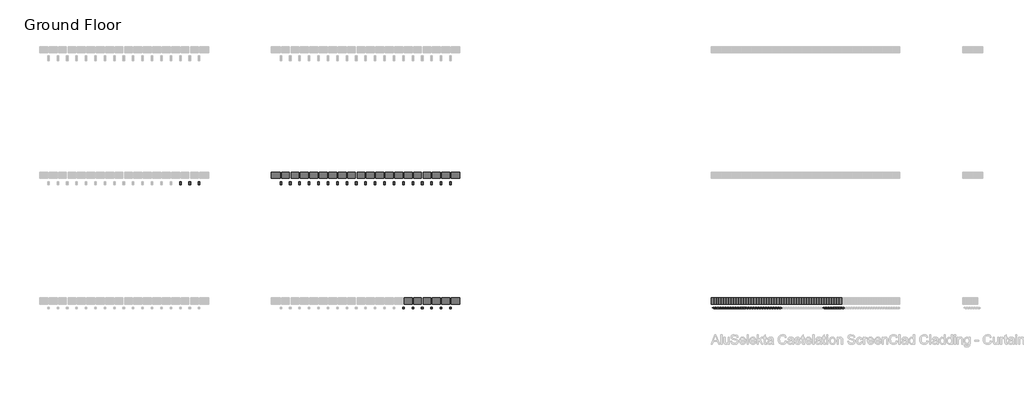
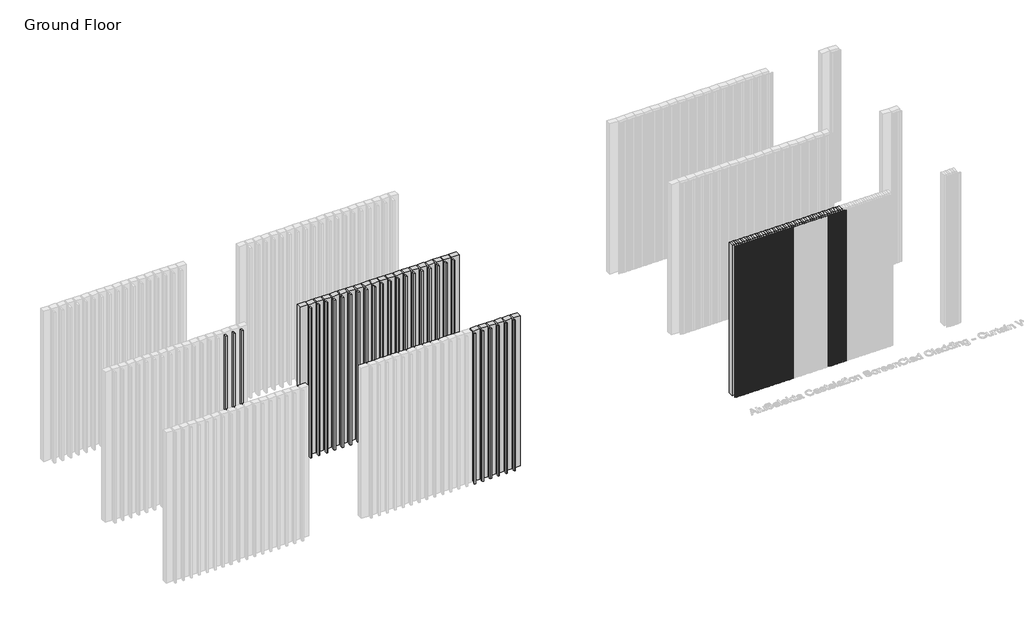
# One storey, part 7 of 350: 78 plates, 63 members.
"""IFC4 building model written with IfcOpenShell, lengths in millimetres."""

from ifc_helpers import new_model, si_unit, origin, place, context, project, spatial, transform, mapped, element, save
from components import rectangular_mullion_4c3290df, rectangular_mullion_5535ef50, rectangular_mullion_ec047115, empty_system_panel_empty_db8e642d, empty_system_panel_empty_1b6afc67, empty_system_panel_empty_4d48d162, empty_system_panel_empty_d822e783, empty_system_panel_empty_086c6263

model = new_model("IFC4")

# Units and contexts
model_context = context("Model", 3, world=origin())
ifc_project = project(units=[si_unit("LENGTHUNIT", "METRE", prefix="MILLI")], contexts=[model_context])

# Site, building, storey
site = spatial("IfcSite", under=ifc_project)
building = spatial("IfcBuilding", under=site)
storey = spatial("IfcBuildingStorey", under=building, Name="Ground Floor", Elevation=0.0)

# Members
placement = place(None, origin())
rectangular_mullion_shape = rectangular_mullion_4c3290df(model_context)
element("IfcMember", 1, ObjectType="Rectangular Mullion : Cladding_Aluminium_Modinex_AluSelekta_Castelation_ScreenClad_40_AfricanEbony", at=placement, inside=storey, context=model_context, shape_type="MappedRepresentation", body=[
    mapped(rectangular_mullion_shape, transform((30996.4361642, 4968.2978302, 0.0), x_axis=(1.0, 0.0, 0.0), y_axis=(0.0, -1.0, 0.0), z_axis=(0.0, 0.0, -1.0))),
])
element("IfcMember", 2, ObjectType="Rectangular Mullion : Cladding_Aluminium_Modinex_AluSelekta_Castelation_ScreenClad_40_AfricanEbony", at=placement, inside=storey, context=model_context, shape_type="MappedRepresentation", body=[
    mapped(rectangular_mullion_shape, transform((30956.4361642, 4968.2978302, 0.0), x_axis=(1.0, 0.0, 0.0), y_axis=(0.0, -1.0, 0.0), z_axis=(0.0, 0.0, -1.0))),
])
element("IfcMember", 3, ObjectType="Rectangular Mullion : Cladding_Aluminium_Modinex_AluSelekta_Castelation_ScreenClad_40_AfricanEbony", at=placement, inside=storey, context=model_context, shape_type="MappedRepresentation", body=[
    mapped(rectangular_mullion_shape, transform((30916.4361642, 4968.2978302, 0.0), x_axis=(1.0, 0.0, 0.0), y_axis=(0.0, -1.0, 0.0), z_axis=(0.0, 0.0, -1.0))),
])
element("IfcMember", 4, ObjectType="Rectangular Mullion : Cladding_Aluminium_Modinex_AluSelekta_Castelation_ScreenClad_40_AfricanEbony", at=placement, inside=storey, context=model_context, shape_type="MappedRepresentation", body=[
    mapped(rectangular_mullion_shape, transform((30876.4361642, 4968.2978302, 0.0), x_axis=(1.0, 0.0, 0.0), y_axis=(0.0, -1.0, 0.0), z_axis=(0.0, 0.0, -1.0))),
])
element("IfcMember", 5, ObjectType="Rectangular Mullion : Cladding_Aluminium_Modinex_AluSelekta_Castelation_ScreenClad_40_AfricanEbony", at=placement, inside=storey, context=model_context, shape_type="MappedRepresentation", body=[
    mapped(rectangular_mullion_shape, transform((30836.4361642, 4968.2978302, 0.0), x_axis=(1.0, 0.0, 0.0), y_axis=(0.0, -1.0, 0.0), z_axis=(0.0, 0.0, -1.0))),
])
element("IfcMember", 6, ObjectType="Rectangular Mullion : Cladding_Aluminium_Modinex_AluSelekta_Castelation_ScreenClad_40_AfricanEbony", at=placement, inside=storey, context=model_context, shape_type="MappedRepresentation", body=[
    mapped(rectangular_mullion_shape, transform((30796.4361642, 4968.2978302, 0.0), x_axis=(1.0, 0.0, 0.0), y_axis=(0.0, -1.0, 0.0), z_axis=(0.0, 0.0, -1.0))),
])
element("IfcMember", 7, ObjectType="Rectangular Mullion : Cladding_Aluminium_Modinex_AluSelekta_Castelation_ScreenClad_40_AfricanEbony", at=placement, inside=storey, context=model_context, shape_type="MappedRepresentation", body=[
    mapped(rectangular_mullion_shape, transform((30756.4361642, 4968.2978302, 0.0), x_axis=(1.0, 0.0, 0.0), y_axis=(0.0, -1.0, 0.0), z_axis=(0.0, 0.0, -1.0))),
])
element("IfcMember", 8, ObjectType="Rectangular Mullion : Cladding_Aluminium_Modinex_AluSelekta_Castelation_ScreenClad_40_AfricanEbony", at=placement, inside=storey, context=model_context, shape_type="MappedRepresentation", body=[
    mapped(rectangular_mullion_shape, transform((30716.4361642, 4968.2978302, 0.0), x_axis=(1.0, 0.0, 0.0), y_axis=(0.0, -1.0, 0.0), z_axis=(0.0, 0.0, -1.0))),
])
element("IfcMember", 9, ObjectType="Rectangular Mullion : Cladding_Aluminium_Modinex_AluSelekta_Castelation_ScreenClad_40_AfricanEbony", at=placement, inside=storey, context=model_context, shape_type="MappedRepresentation", body=[
    mapped(rectangular_mullion_shape, transform((29996.4361642, 4968.2978302, 0.0), x_axis=(1.0, 0.0, 0.0), y_axis=(0.0, -1.0, 0.0), z_axis=(0.0, 0.0, -1.0))),
])
element("IfcMember", 10, ObjectType="Rectangular Mullion : Cladding_Aluminium_Modinex_AluSelekta_Castelation_ScreenClad_40_AfricanEbony", at=placement, inside=storey, context=model_context, shape_type="MappedRepresentation", body=[
    mapped(rectangular_mullion_shape, transform((29956.4361642, 4968.2978302, 0.0), x_axis=(1.0, 0.0, 0.0), y_axis=(0.0, -1.0, 0.0), z_axis=(0.0, 0.0, -1.0))),
])
element("IfcMember", 11, ObjectType="Rectangular Mullion : Cladding_Aluminium_Modinex_AluSelekta_Castelation_ScreenClad_40_AfricanEbony", at=placement, inside=storey, context=model_context, shape_type="MappedRepresentation", body=[
    mapped(rectangular_mullion_shape, transform((29916.4361642, 4968.2978302, 0.0), x_axis=(1.0, 0.0, 0.0), y_axis=(0.0, -1.0, 0.0), z_axis=(0.0, 0.0, -1.0))),
])
element("IfcMember", 12, ObjectType="Rectangular Mullion : Cladding_Aluminium_Modinex_AluSelekta_Castelation_ScreenClad_40_AfricanEbony", at=placement, inside=storey, context=model_context, shape_type="MappedRepresentation", body=[
    mapped(rectangular_mullion_shape, transform((29876.4361642, 4968.2978302, 0.0), x_axis=(1.0, 0.0, 0.0), y_axis=(0.0, -1.0, 0.0), z_axis=(0.0, 0.0, -1.0))),
])
element("IfcMember", 13, ObjectType="Rectangular Mullion : Cladding_Aluminium_Modinex_AluSelekta_Castelation_ScreenClad_40_AfricanEbony", at=placement, inside=storey, context=model_context, shape_type="MappedRepresentation", body=[
    mapped(rectangular_mullion_shape, transform((29836.4361642, 4968.2978302, 0.0), x_axis=(1.0, 0.0, 0.0), y_axis=(0.0, -1.0, 0.0), z_axis=(0.0, 0.0, -1.0))),
])
element("IfcMember", 14, ObjectType="Rectangular Mullion : Cladding_Aluminium_Modinex_AluSelekta_Castelation_ScreenClad_40_AfricanEbony", at=placement, inside=storey, context=model_context, shape_type="MappedRepresentation", body=[
    mapped(rectangular_mullion_shape, transform((29796.4361642, 4968.2978302, 0.0), x_axis=(1.0, 0.0, 0.0), y_axis=(0.0, -1.0, 0.0), z_axis=(0.0, 0.0, -1.0))),
])
element("IfcMember", 15, ObjectType="Rectangular Mullion : Cladding_Aluminium_Modinex_AluSelekta_Castelation_ScreenClad_40_AfricanEbony", at=placement, inside=storey, context=model_context, shape_type="MappedRepresentation", body=[
    mapped(rectangular_mullion_shape, transform((29756.4361642, 4968.2978302, 0.0), x_axis=(1.0, 0.0, 0.0), y_axis=(0.0, -1.0, 0.0), z_axis=(0.0, 0.0, -1.0))),
])
element("IfcMember", 16, ObjectType="Rectangular Mullion : Cladding_Aluminium_Modinex_AluSelekta_Castelation_ScreenClad_40_AfricanEbony", at=placement, inside=storey, context=model_context, shape_type="MappedRepresentation", body=[
    mapped(rectangular_mullion_shape, transform((29716.4361642, 4968.2978302, 0.0), x_axis=(1.0, 0.0, 0.0), y_axis=(0.0, -1.0, 0.0), z_axis=(0.0, 0.0, -1.0))),
])
element("IfcMember", 17, ObjectType="Rectangular Mullion : Cladding_Aluminium_Modinex_AluSelekta_Castelation_ScreenClad_40_AfricanEbony", at=placement, inside=storey, context=model_context, shape_type="MappedRepresentation", body=[
    mapped(rectangular_mullion_shape, transform((29676.4361642, 4968.2978302, 0.0), x_axis=(1.0, 0.0, 0.0), y_axis=(0.0, -1.0, 0.0), z_axis=(0.0, 0.0, -1.0))),
])
element("IfcMember", 18, ObjectType="Rectangular Mullion : Cladding_Aluminium_Modinex_AluSelekta_Castelation_ScreenClad_40_AfricanEbony", at=placement, inside=storey, context=model_context, shape_type="MappedRepresentation", body=[
    mapped(rectangular_mullion_shape, transform((29636.4361642, 4968.2978302, 0.0), x_axis=(1.0, 0.0, 0.0), y_axis=(0.0, -1.0, 0.0), z_axis=(0.0, 0.0, -1.0))),
])
element("IfcMember", 19, ObjectType="Rectangular Mullion : Cladding_Aluminium_Modinex_AluSelekta_Castelation_ScreenClad_40_AfricanEbony", at=placement, inside=storey, context=model_context, shape_type="MappedRepresentation", body=[
    mapped(rectangular_mullion_shape, transform((29596.4361642, 4968.2978302, 0.0), x_axis=(1.0, 0.0, 0.0), y_axis=(0.0, -1.0, 0.0), z_axis=(0.0, 0.0, -1.0))),
])
element("IfcMember", 20, ObjectType="Rectangular Mullion : Cladding_Aluminium_Modinex_AluSelekta_Castelation_ScreenClad_40_AfricanEbony", at=placement, inside=storey, context=model_context, shape_type="MappedRepresentation", body=[
    mapped(rectangular_mullion_shape, transform((29556.4361642, 4968.2978302, 0.0), x_axis=(1.0, 0.0, 0.0), y_axis=(0.0, -1.0, 0.0), z_axis=(0.0, 0.0, -1.0))),
])
element("IfcMember", 21, ObjectType="Rectangular Mullion : Cladding_Aluminium_Modinex_AluSelekta_Castelation_ScreenClad_40_AfricanEbony", at=placement, inside=storey, context=model_context, shape_type="MappedRepresentation", body=[
    mapped(rectangular_mullion_shape, transform((29516.4361642, 4968.2978302, 0.0), x_axis=(1.0, 0.0, 0.0), y_axis=(0.0, -1.0, 0.0), z_axis=(0.0, 0.0, -1.0))),
])
element("IfcMember", 22, ObjectType="Rectangular Mullion : Cladding_Aluminium_Modinex_AluSelekta_Castelation_ScreenClad_40_AfricanEbony", at=placement, inside=storey, context=model_context, shape_type="MappedRepresentation", body=[
    mapped(rectangular_mullion_shape, transform((29476.4361642, 4968.2978302, 0.0), x_axis=(1.0, 0.0, 0.0), y_axis=(0.0, -1.0, 0.0), z_axis=(0.0, 0.0, -1.0))),
])
element("IfcMember", 23, ObjectType="Rectangular Mullion : Cladding_Aluminium_Modinex_AluSelekta_Castelation_ScreenClad_40_AfricanEbony", at=placement, inside=storey, context=model_context, shape_type="MappedRepresentation", body=[
    mapped(rectangular_mullion_shape, transform((29436.4361642, 4968.2978302, 0.0), x_axis=(1.0, 0.0, 0.0), y_axis=(0.0, -1.0, 0.0), z_axis=(0.0, 0.0, -1.0))),
])
element("IfcMember", 24, ObjectType="Rectangular Mullion : Cladding_Aluminium_Modinex_AluSelekta_Castelation_ScreenClad_40_AfricanEbony", at=placement, inside=storey, context=model_context, shape_type="MappedRepresentation", body=[
    mapped(rectangular_mullion_shape, transform((29396.4361642, 4968.2978302, 0.0), x_axis=(1.0, 0.0, 0.0), y_axis=(0.0, -1.0, 0.0), z_axis=(0.0, 0.0, -1.0))),
])
element("IfcMember", 25, ObjectType="Rectangular Mullion : Cladding_Aluminium_Modinex_AluSelekta_Castelation_ScreenClad_40_AfricanEbony", at=placement, inside=storey, context=model_context, shape_type="MappedRepresentation", body=[
    mapped(rectangular_mullion_shape, transform((29356.4361642, 4968.2978302, 0.0), x_axis=(1.0, 0.0, 0.0), y_axis=(0.0, -1.0, 0.0), z_axis=(0.0, 0.0, -1.0))),
])
element("IfcMember", 26, ObjectType="Rectangular Mullion : Cladding_Aluminium_Modinex_AluSelekta_Castelation_ScreenClad_40_AfricanEbony", at=placement, inside=storey, context=model_context, shape_type="MappedRepresentation", body=[
    mapped(rectangular_mullion_shape, transform((29316.4361642, 4968.2978302, 0.0), x_axis=(1.0, 0.0, 0.0), y_axis=(0.0, -1.0, 0.0), z_axis=(0.0, 0.0, -1.0))),
])
element("IfcMember", 27, ObjectType="Rectangular Mullion : Cladding_Aluminium_Modinex_AluSelekta_Castelation_ScreenClad_40_AfricanEbony", at=placement, inside=storey, context=model_context, shape_type="MappedRepresentation", body=[
    mapped(rectangular_mullion_shape, transform((29276.4361642, 4968.2978302, 0.0), x_axis=(1.0, 0.0, 0.0), y_axis=(0.0, -1.0, 0.0), z_axis=(0.0, 0.0, -1.0))),
])
element("IfcMember", 28, ObjectType="Rectangular Mullion : Cladding_Aluminium_Modinex_AluSelekta_Castelation_ScreenClad_40_AfricanEbony", at=placement, inside=storey, context=model_context, shape_type="MappedRepresentation", body=[
    mapped(rectangular_mullion_shape, transform((29236.4361642, 4968.2978302, 0.0), x_axis=(1.0, 0.0, 0.0), y_axis=(0.0, -1.0, 0.0), z_axis=(0.0, 0.0, -1.0))),
])
element("IfcMember", 29, ObjectType="Rectangular Mullion : Cladding_Aluminium_Modinex_AluSelekta_Castelation_ScreenClad_40_AfricanEbony", at=placement, inside=storey, context=model_context, shape_type="MappedRepresentation", body=[
    mapped(rectangular_mullion_shape, transform((29196.4361642, 4968.2978302, 0.0), x_axis=(1.0, 0.0, 0.0), y_axis=(0.0, -1.0, 0.0), z_axis=(0.0, 0.0, -1.0))),
])
element("IfcMember", 30, ObjectType="Rectangular Mullion : Cladding_Aluminium_Modinex_AluSelekta_Castelation_ScreenClad_40_AfricanEbony", at=placement, inside=storey, context=model_context, shape_type="MappedRepresentation", body=[
    mapped(rectangular_mullion_shape, transform((29156.4361642, 4968.2978302, 0.0), x_axis=(1.0, 0.0, 0.0), y_axis=(0.0, -1.0, 0.0), z_axis=(0.0, 0.0, -1.0))),
])
element("IfcMember", 31, ObjectType="Rectangular Mullion : Cladding_Aluminium_Modinex_AluSelekta_Castelation_ScreenClad_40_AfricanEbony", at=placement, inside=storey, context=model_context, shape_type="MappedRepresentation", body=[
    mapped(rectangular_mullion_shape, transform((29116.4361642, 4968.2978302, 0.0), x_axis=(1.0, 0.0, 0.0), y_axis=(0.0, -1.0, 0.0), z_axis=(0.0, 0.0, -1.0))),
])
element("IfcMember", 32, ObjectType="Rectangular Mullion : Cladding_Aluminium_Modinex_AluSelekta_Castelation_ScreenClad_40_AfricanEbony", at=placement, inside=storey, context=model_context, shape_type="MappedRepresentation", body=[
    mapped(rectangular_mullion_shape, transform((29076.4361642, 4968.2978302, 0.0), x_axis=(1.0, 0.0, 0.0), y_axis=(0.0, -1.0, 0.0), z_axis=(0.0, 0.0, -1.0))),
])
element("IfcMember", 33, ObjectType="Rectangular Mullion : Cladding_Aluminium_Modinex_AluSelekta_Castelation_ScreenClad_40_AfricanEbony", at=placement, inside=storey, context=model_context, shape_type="MappedRepresentation", body=[
    mapped(rectangular_mullion_shape, transform((29036.4361642, 4968.2978302, 0.0), x_axis=(1.0, 0.0, 0.0), y_axis=(0.0, -1.0, 0.0), z_axis=(0.0, 0.0, -1.0))),
])
element("IfcMember", 34, ObjectType="Rectangular Mullion : Cladding_Aluminium_Modinex_AluSelekta_Castelation_ScreenClad_40_AfricanEbony", at=placement, inside=storey, context=model_context, shape_type="MappedRepresentation", body=[
    mapped(rectangular_mullion_shape, transform((28996.4361642, 4968.2978302, 0.0), x_axis=(1.0, 0.0, 0.0), y_axis=(0.0, -1.0, 0.0), z_axis=(0.0, 0.0, -1.0))),
])
element("IfcMember", 35, ObjectType="Rectangular Mullion : Cladding_Aluminium_Modinex_AluSelekta_Castelation_ScreenClad_40_AfricanEbony", at=placement, inside=storey, context=model_context, shape_type="MappedRepresentation", body=[
    mapped(rectangular_mullion_shape, transform((28956.4361642, 4968.2978302, 0.0), x_axis=(1.0, 0.0, 0.0), y_axis=(0.0, -1.0, 0.0), z_axis=(0.0, 0.0, -1.0))),
])
rectangular_mullion_2_shape = rectangular_mullion_5535ef50(model_context)
element("IfcMember", 36, ObjectType="Rectangular Mullion : Batten_Aluminium_Modinex_AluBatten_25x50_TasmanianOak", at=placement, inside=storey, context=model_context, shape_type="MappedRepresentation", body=[
    mapped(rectangular_mullion_2_shape, transform((20466.4361642, 6968.2978302, 0.0), x_axis=(1.0, 0.0, 0.0), y_axis=(0.0, -1.0, 0.0), z_axis=(0.0, 0.0, -1.0))),
])
element("IfcMember", 37, ObjectType="Rectangular Mullion : Batten_Aluminium_Modinex_AluBatten_25x50_TasmanianOak", at=placement, inside=storey, context=model_context, shape_type="MappedRepresentation", body=[
    mapped(rectangular_mullion_2_shape, transform((20616.4361642, 6968.2978302, 0.0), x_axis=(1.0, 0.0, 0.0), y_axis=(0.0, -1.0, 0.0), z_axis=(0.0, 0.0, -1.0))),
])
element("IfcMember", 38, ObjectType="Rectangular Mullion : Batten_Aluminium_Modinex_AluBatten_25x50_TasmanianOak", at=placement, inside=storey, context=model_context, shape_type="MappedRepresentation", body=[
    mapped(rectangular_mullion_2_shape, transform((20766.4361642, 6968.2978302, 0.0), x_axis=(1.0, 0.0, 0.0), y_axis=(0.0, -1.0, 0.0), z_axis=(0.0, 0.0, -1.0))),
])
rectangular_mullion_3_shape = rectangular_mullion_ec047115(model_context)
element("IfcMember", 39, ObjectType="Rectangular Mullion : Batten_Aluminium_Modinex_AluBatten_25x25_WhiteOak", at=placement, inside=storey, context=model_context, shape_type="MappedRepresentation", body=[
    mapped(rectangular_mullion_3_shape, transform((24016.4361642, 4968.2978302, 0.0), x_axis=(1.0, 0.0, 0.0), y_axis=(0.0, -1.0, 0.0), z_axis=(0.0, 0.0, -1.0))),
])
element("IfcMember", 40, ObjectType="Rectangular Mullion : Batten_Aluminium_Modinex_AluBatten_25x25_WhiteOak", at=placement, inside=storey, context=model_context, shape_type="MappedRepresentation", body=[
    mapped(rectangular_mullion_3_shape, transform((24166.4361642, 4968.2978302, 0.0), x_axis=(1.0, 0.0, 0.0), y_axis=(0.0, -1.0, 0.0), z_axis=(0.0, 0.0, -1.0))),
])
element("IfcMember", 41, ObjectType="Rectangular Mullion : Batten_Aluminium_Modinex_AluBatten_25x25_WhiteOak", at=placement, inside=storey, context=model_context, shape_type="MappedRepresentation", body=[
    mapped(rectangular_mullion_3_shape, transform((24316.4361642, 4968.2978302, 0.0), x_axis=(1.0, 0.0, 0.0), y_axis=(0.0, -1.0, 0.0), z_axis=(0.0, 0.0, -1.0))),
])
element("IfcMember", 42, ObjectType="Rectangular Mullion : Batten_Aluminium_Modinex_AluBatten_25x25_WhiteOak", at=placement, inside=storey, context=model_context, shape_type="MappedRepresentation", body=[
    mapped(rectangular_mullion_3_shape, transform((24466.4361642, 4968.2978302, 0.0), x_axis=(1.0, 0.0, 0.0), y_axis=(0.0, -1.0, 0.0), z_axis=(0.0, 0.0, -1.0))),
])
element("IfcMember", 43, ObjectType="Rectangular Mullion : Batten_Aluminium_Modinex_AluBatten_25x25_WhiteOak", at=placement, inside=storey, context=model_context, shape_type="MappedRepresentation", body=[
    mapped(rectangular_mullion_3_shape, transform((24616.4361642, 4968.2978302, 0.0), x_axis=(1.0, 0.0, 0.0), y_axis=(0.0, -1.0, 0.0), z_axis=(0.0, 0.0, -1.0))),
])
element("IfcMember", 44, ObjectType="Rectangular Mullion : Batten_Aluminium_Modinex_AluBatten_25x25_WhiteOak", at=placement, inside=storey, context=model_context, shape_type="MappedRepresentation", body=[
    mapped(rectangular_mullion_3_shape, transform((24766.4361642, 4968.2978302, 0.0), x_axis=(1.0, 0.0, 0.0), y_axis=(0.0, -1.0, 0.0), z_axis=(0.0, 0.0, -1.0))),
])
element("IfcMember", 45, ObjectType="Rectangular Mullion : Batten_Aluminium_Modinex_AluBatten_25x50_WhiteOak", at=placement, inside=storey, context=model_context, shape_type="MappedRepresentation", body=[
    mapped(rectangular_mullion_2_shape, transform((22066.4361642, 6968.2978302, 0.0), x_axis=(1.0, 0.0, 0.0), y_axis=(0.0, -1.0, 0.0), z_axis=(0.0, 0.0, -1.0))),
])
element("IfcMember", 46, ObjectType="Rectangular Mullion : Batten_Aluminium_Modinex_AluBatten_25x50_WhiteOak", at=placement, inside=storey, context=model_context, shape_type="MappedRepresentation", body=[
    mapped(rectangular_mullion_2_shape, transform((22216.4361642, 6968.2978302, 0.0), x_axis=(1.0, 0.0, 0.0), y_axis=(0.0, -1.0, 0.0), z_axis=(0.0, 0.0, -1.0))),
])
element("IfcMember", 47, ObjectType="Rectangular Mullion : Batten_Aluminium_Modinex_AluBatten_25x50_WhiteOak", at=placement, inside=storey, context=model_context, shape_type="MappedRepresentation", body=[
    mapped(rectangular_mullion_2_shape, transform((22366.4361642, 6968.2978302, 0.0), x_axis=(1.0, 0.0, 0.0), y_axis=(0.0, -1.0, 0.0), z_axis=(0.0, 0.0, -1.0))),
])
element("IfcMember", 48, ObjectType="Rectangular Mullion : Batten_Aluminium_Modinex_AluBatten_25x50_WhiteOak", at=placement, inside=storey, context=model_context, shape_type="MappedRepresentation", body=[
    mapped(rectangular_mullion_2_shape, transform((22516.4361642, 6968.2978302, 0.0), x_axis=(1.0, 0.0, 0.0), y_axis=(0.0, -1.0, 0.0), z_axis=(0.0, 0.0, -1.0))),
])
element("IfcMember", 49, ObjectType="Rectangular Mullion : Batten_Aluminium_Modinex_AluBatten_25x50_WhiteOak", at=placement, inside=storey, context=model_context, shape_type="MappedRepresentation", body=[
    mapped(rectangular_mullion_2_shape, transform((22666.4361642, 6968.2978302, 0.0), x_axis=(1.0, 0.0, 0.0), y_axis=(0.0, -1.0, 0.0), z_axis=(0.0, 0.0, -1.0))),
])
element("IfcMember", 50, ObjectType="Rectangular Mullion : Batten_Aluminium_Modinex_AluBatten_25x50_WhiteOak", at=placement, inside=storey, context=model_context, shape_type="MappedRepresentation", body=[
    mapped(rectangular_mullion_2_shape, transform((22816.4361642, 6968.2978302, 0.0), x_axis=(1.0, 0.0, 0.0), y_axis=(0.0, -1.0, 0.0), z_axis=(0.0, 0.0, -1.0))),
])
element("IfcMember", 51, ObjectType="Rectangular Mullion : Batten_Aluminium_Modinex_AluBatten_25x50_WhiteOak", at=placement, inside=storey, context=model_context, shape_type="MappedRepresentation", body=[
    mapped(rectangular_mullion_2_shape, transform((22966.4361642, 6968.2978302, 0.0), x_axis=(1.0, 0.0, 0.0), y_axis=(0.0, -1.0, 0.0), z_axis=(0.0, 0.0, -1.0))),
])
element("IfcMember", 52, ObjectType="Rectangular Mullion : Batten_Aluminium_Modinex_AluBatten_25x50_WhiteOak", at=placement, inside=storey, context=model_context, shape_type="MappedRepresentation", body=[
    mapped(rectangular_mullion_2_shape, transform((23116.4361642, 6968.2978302, 0.0), x_axis=(1.0, 0.0, 0.0), y_axis=(0.0, -1.0, 0.0), z_axis=(0.0, 0.0, -1.0))),
])
element("IfcMember", 53, ObjectType="Rectangular Mullion : Batten_Aluminium_Modinex_AluBatten_25x50_WhiteOak", at=placement, inside=storey, context=model_context, shape_type="MappedRepresentation", body=[
    mapped(rectangular_mullion_2_shape, transform((23266.4361642, 6968.2978302, 0.0), x_axis=(1.0, 0.0, 0.0), y_axis=(0.0, -1.0, 0.0), z_axis=(0.0, 0.0, -1.0))),
])
element("IfcMember", 54, ObjectType="Rectangular Mullion : Batten_Aluminium_Modinex_AluBatten_25x50_WhiteOak", at=placement, inside=storey, context=model_context, shape_type="MappedRepresentation", body=[
    mapped(rectangular_mullion_2_shape, transform((23416.4361642, 6968.2978302, 0.0), x_axis=(1.0, 0.0, 0.0), y_axis=(0.0, -1.0, 0.0), z_axis=(0.0, 0.0, -1.0))),
])
element("IfcMember", 55, ObjectType="Rectangular Mullion : Batten_Aluminium_Modinex_AluBatten_25x50_WhiteOak", at=placement, inside=storey, context=model_context, shape_type="MappedRepresentation", body=[
    mapped(rectangular_mullion_2_shape, transform((23566.4361642, 6968.2978302, 0.0), x_axis=(1.0, 0.0, 0.0), y_axis=(0.0, -1.0, 0.0), z_axis=(0.0, 0.0, -1.0))),
])
element("IfcMember", 56, ObjectType="Rectangular Mullion : Batten_Aluminium_Modinex_AluBatten_25x50_WhiteOak", at=placement, inside=storey, context=model_context, shape_type="MappedRepresentation", body=[
    mapped(rectangular_mullion_2_shape, transform((23716.4361642, 6968.2978302, 0.0), x_axis=(1.0, 0.0, 0.0), y_axis=(0.0, -1.0, 0.0), z_axis=(0.0, 0.0, -1.0))),
])
element("IfcMember", 57, ObjectType="Rectangular Mullion : Batten_Aluminium_Modinex_AluBatten_25x50_WhiteOak", at=placement, inside=storey, context=model_context, shape_type="MappedRepresentation", body=[
    mapped(rectangular_mullion_2_shape, transform((23866.4361642, 6968.2978302, 0.0), x_axis=(1.0, 0.0, 0.0), y_axis=(0.0, -1.0, 0.0), z_axis=(0.0, 0.0, -1.0))),
])
element("IfcMember", 58, ObjectType="Rectangular Mullion : Batten_Aluminium_Modinex_AluBatten_25x50_WhiteOak", at=placement, inside=storey, context=model_context, shape_type="MappedRepresentation", body=[
    mapped(rectangular_mullion_2_shape, transform((24016.4361642, 6968.2978302, 0.0), x_axis=(1.0, 0.0, 0.0), y_axis=(0.0, -1.0, 0.0), z_axis=(0.0, 0.0, -1.0))),
])
element("IfcMember", 59, ObjectType="Rectangular Mullion : Batten_Aluminium_Modinex_AluBatten_25x50_WhiteOak", at=placement, inside=storey, context=model_context, shape_type="MappedRepresentation", body=[
    mapped(rectangular_mullion_2_shape, transform((24166.4361642, 6968.2978302, 0.0), x_axis=(1.0, 0.0, 0.0), y_axis=(0.0, -1.0, 0.0), z_axis=(0.0, 0.0, -1.0))),
])
element("IfcMember", 60, ObjectType="Rectangular Mullion : Batten_Aluminium_Modinex_AluBatten_25x50_WhiteOak", at=placement, inside=storey, context=model_context, shape_type="MappedRepresentation", body=[
    mapped(rectangular_mullion_2_shape, transform((24316.4361642, 6968.2978302, 0.0), x_axis=(1.0, 0.0, 0.0), y_axis=(0.0, -1.0, 0.0), z_axis=(0.0, 0.0, -1.0))),
])
element("IfcMember", 61, ObjectType="Rectangular Mullion : Batten_Aluminium_Modinex_AluBatten_25x50_WhiteOak", at=placement, inside=storey, context=model_context, shape_type="MappedRepresentation", body=[
    mapped(rectangular_mullion_2_shape, transform((24466.4361642, 6968.2978302, 0.0), x_axis=(1.0, 0.0, 0.0), y_axis=(0.0, -1.0, 0.0), z_axis=(0.0, 0.0, -1.0))),
])
element("IfcMember", 62, ObjectType="Rectangular Mullion : Batten_Aluminium_Modinex_AluBatten_25x50_WhiteOak", at=placement, inside=storey, context=model_context, shape_type="MappedRepresentation", body=[
    mapped(rectangular_mullion_2_shape, transform((24616.4361642, 6968.2978302, 0.0), x_axis=(1.0, 0.0, 0.0), y_axis=(0.0, -1.0, 0.0), z_axis=(0.0, 0.0, -1.0))),
])
element("IfcMember", 63, ObjectType="Rectangular Mullion : Batten_Aluminium_Modinex_AluBatten_25x50_WhiteOak", at=placement, inside=storey, context=model_context, shape_type="MappedRepresentation", body=[
    mapped(rectangular_mullion_2_shape, transform((24766.4361642, 6968.2978302, 0.0), x_axis=(1.0, 0.0, 0.0), y_axis=(0.0, -1.0, 0.0), z_axis=(0.0, 0.0, -1.0))),
])

# Plates
empty_system_panel_empty_shape = empty_system_panel_empty_db8e642d(model_context)
element("IfcPlate", 64, ObjectType="Empty System Panel : Empty", at=placement, inside=storey, context=model_context, shape_type="MappedRepresentation", body=[
    mapped(empty_system_panel_empty_shape, transform((21985.1861641, 6968.2978302, 0.0), x_axis=(1.0, 0.0, 0.0), y_axis=(0.0, 1.0, 0.0), z_axis=(0.0, 0.0, 1.0))),
])
empty_system_panel_empty_2_shape = empty_system_panel_empty_1b6afc67(model_context)
element("IfcPlate", 65, ObjectType="Empty System Panel : Empty", at=placement, inside=storey, context=model_context, shape_type="MappedRepresentation", body=[
    mapped(empty_system_panel_empty_2_shape, transform((24091.4361642, 4968.2978302, 0.0), x_axis=(1.0, 0.0, 0.0), y_axis=(0.0, 1.0, 0.0), z_axis=(0.0, 0.0, 1.0))),
])
element("IfcPlate", 66, ObjectType="Empty System Panel : Empty", at=placement, inside=storey, context=model_context, shape_type="MappedRepresentation", body=[
    mapped(empty_system_panel_empty_2_shape, transform((24241.4361642, 4968.2978302, 0.0), x_axis=(1.0, 0.0, 0.0), y_axis=(0.0, 1.0, 0.0), z_axis=(0.0, 0.0, 1.0))),
])
element("IfcPlate", 67, ObjectType="Empty System Panel : Empty", at=placement, inside=storey, context=model_context, shape_type="MappedRepresentation", body=[
    mapped(empty_system_panel_empty_2_shape, transform((24391.4361642, 4968.2978302, 0.0), x_axis=(1.0, 0.0, 0.0), y_axis=(0.0, 1.0, 0.0), z_axis=(0.0, 0.0, 1.0))),
])
element("IfcPlate", 68, ObjectType="Empty System Panel : Empty", at=placement, inside=storey, context=model_context, shape_type="MappedRepresentation", body=[
    mapped(empty_system_panel_empty_2_shape, transform((24541.4361642, 4968.2978302, 0.0), x_axis=(1.0, 0.0, 0.0), y_axis=(0.0, 1.0, 0.0), z_axis=(0.0, 0.0, 1.0))),
])
element("IfcPlate", 69, ObjectType="Empty System Panel : Empty", at=placement, inside=storey, context=model_context, shape_type="MappedRepresentation", body=[
    mapped(empty_system_panel_empty_2_shape, transform((24691.4361642, 4968.2978302, 0.0), x_axis=(1.0, 0.0, 0.0), y_axis=(0.0, 1.0, 0.0), z_axis=(0.0, 0.0, 1.0))),
])
element("IfcPlate", 70, ObjectType="Empty System Panel : Empty", at=placement, inside=storey, context=model_context, shape_type="MappedRepresentation", body=[
    mapped(empty_system_panel_empty_2_shape, transform((22141.4361642, 6968.2978302, 0.0), x_axis=(1.0, 0.0, 0.0), y_axis=(0.0, 1.0, 0.0), z_axis=(0.0, 0.0, 1.0))),
])
element("IfcPlate", 71, ObjectType="Empty System Panel : Empty", at=placement, inside=storey, context=model_context, shape_type="MappedRepresentation", body=[
    mapped(empty_system_panel_empty_2_shape, transform((22291.4361642, 6968.2978302, 0.0), x_axis=(1.0, 0.0, 0.0), y_axis=(0.0, 1.0, 0.0), z_axis=(0.0, 0.0, 1.0))),
])
element("IfcPlate", 72, ObjectType="Empty System Panel : Empty", at=placement, inside=storey, context=model_context, shape_type="MappedRepresentation", body=[
    mapped(empty_system_panel_empty_2_shape, transform((22441.4361642, 6968.2978302, 0.0), x_axis=(1.0, 0.0, 0.0), y_axis=(0.0, 1.0, 0.0), z_axis=(0.0, 0.0, 1.0))),
])
element("IfcPlate", 73, ObjectType="Empty System Panel : Empty", at=placement, inside=storey, context=model_context, shape_type="MappedRepresentation", body=[
    mapped(empty_system_panel_empty_2_shape, transform((22591.4361642, 6968.2978302, 0.0), x_axis=(1.0, 0.0, 0.0), y_axis=(0.0, 1.0, 0.0), z_axis=(0.0, 0.0, 1.0))),
])
element("IfcPlate", 74, ObjectType="Empty System Panel : Empty", at=placement, inside=storey, context=model_context, shape_type="MappedRepresentation", body=[
    mapped(empty_system_panel_empty_2_shape, transform((22741.4361642, 6968.2978302, 0.0), x_axis=(1.0, 0.0, 0.0), y_axis=(0.0, 1.0, 0.0), z_axis=(0.0, 0.0, 1.0))),
])
element("IfcPlate", 75, ObjectType="Empty System Panel : Empty", at=placement, inside=storey, context=model_context, shape_type="MappedRepresentation", body=[
    mapped(empty_system_panel_empty_2_shape, transform((22891.4361642, 6968.2978302, 0.0), x_axis=(1.0, 0.0, 0.0), y_axis=(0.0, 1.0, 0.0), z_axis=(0.0, 0.0, 1.0))),
])
element("IfcPlate", 76, ObjectType="Empty System Panel : Empty", at=placement, inside=storey, context=model_context, shape_type="MappedRepresentation", body=[
    mapped(empty_system_panel_empty_2_shape, transform((23041.4361642, 6968.2978302, 0.0), x_axis=(1.0, 0.0, 0.0), y_axis=(0.0, 1.0, 0.0), z_axis=(0.0, 0.0, 1.0))),
])
element("IfcPlate", 77, ObjectType="Empty System Panel : Empty", at=placement, inside=storey, context=model_context, shape_type="MappedRepresentation", body=[
    mapped(empty_system_panel_empty_2_shape, transform((23191.4361642, 6968.2978302, 0.0), x_axis=(1.0, 0.0, 0.0), y_axis=(0.0, 1.0, 0.0), z_axis=(0.0, 0.0, 1.0))),
])
element("IfcPlate", 78, ObjectType="Empty System Panel : Empty", at=placement, inside=storey, context=model_context, shape_type="MappedRepresentation", body=[
    mapped(empty_system_panel_empty_2_shape, transform((23341.4361642, 6968.2978302, 0.0), x_axis=(1.0, 0.0, 0.0), y_axis=(0.0, 1.0, 0.0), z_axis=(0.0, 0.0, 1.0))),
])
element("IfcPlate", 79, ObjectType="Empty System Panel : Empty", at=placement, inside=storey, context=model_context, shape_type="MappedRepresentation", body=[
    mapped(empty_system_panel_empty_2_shape, transform((23491.4361642, 6968.2978302, 0.0), x_axis=(1.0, 0.0, 0.0), y_axis=(0.0, 1.0, 0.0), z_axis=(0.0, 0.0, 1.0))),
])
element("IfcPlate", 80, ObjectType="Empty System Panel : Empty", at=placement, inside=storey, context=model_context, shape_type="MappedRepresentation", body=[
    mapped(empty_system_panel_empty_2_shape, transform((23641.4361642, 6968.2978302, 0.0), x_axis=(1.0, 0.0, 0.0), y_axis=(0.0, 1.0, 0.0), z_axis=(0.0, 0.0, 1.0))),
])
element("IfcPlate", 81, ObjectType="Empty System Panel : Empty", at=placement, inside=storey, context=model_context, shape_type="MappedRepresentation", body=[
    mapped(empty_system_panel_empty_2_shape, transform((23791.4361642, 6968.2978302, 0.0), x_axis=(1.0, 0.0, 0.0), y_axis=(0.0, 1.0, 0.0), z_axis=(0.0, 0.0, 1.0))),
])
element("IfcPlate", 82, ObjectType="Empty System Panel : Empty", at=placement, inside=storey, context=model_context, shape_type="MappedRepresentation", body=[
    mapped(empty_system_panel_empty_2_shape, transform((23941.4361642, 6968.2978302, 0.0), x_axis=(1.0, 0.0, 0.0), y_axis=(0.0, 1.0, 0.0), z_axis=(0.0, 0.0, 1.0))),
])
element("IfcPlate", 83, ObjectType="Empty System Panel : Empty", at=placement, inside=storey, context=model_context, shape_type="MappedRepresentation", body=[
    mapped(empty_system_panel_empty_2_shape, transform((24091.4361642, 6968.2978302, 0.0), x_axis=(1.0, 0.0, 0.0), y_axis=(0.0, 1.0, 0.0), z_axis=(0.0, 0.0, 1.0))),
])
element("IfcPlate", 84, ObjectType="Empty System Panel : Empty", at=placement, inside=storey, context=model_context, shape_type="MappedRepresentation", body=[
    mapped(empty_system_panel_empty_2_shape, transform((24241.4361642, 6968.2978302, 0.0), x_axis=(1.0, 0.0, 0.0), y_axis=(0.0, 1.0, 0.0), z_axis=(0.0, 0.0, 1.0))),
])
element("IfcPlate", 85, ObjectType="Empty System Panel : Empty", at=placement, inside=storey, context=model_context, shape_type="MappedRepresentation", body=[
    mapped(empty_system_panel_empty_2_shape, transform((24391.4361642, 6968.2978302, 0.0), x_axis=(1.0, 0.0, 0.0), y_axis=(0.0, 1.0, 0.0), z_axis=(0.0, 0.0, 1.0))),
])
element("IfcPlate", 86, ObjectType="Empty System Panel : Empty", at=placement, inside=storey, context=model_context, shape_type="MappedRepresentation", body=[
    mapped(empty_system_panel_empty_2_shape, transform((24541.4361642, 6968.2978302, 0.0), x_axis=(1.0, 0.0, 0.0), y_axis=(0.0, 1.0, 0.0), z_axis=(0.0, 0.0, 1.0))),
])
element("IfcPlate", 87, ObjectType="Empty System Panel : Empty", at=placement, inside=storey, context=model_context, shape_type="MappedRepresentation", body=[
    mapped(empty_system_panel_empty_2_shape, transform((24691.4361642, 6968.2978302, 0.0), x_axis=(1.0, 0.0, 0.0), y_axis=(0.0, 1.0, 0.0), z_axis=(0.0, 0.0, 1.0))),
])
empty_system_panel_empty_3_shape = empty_system_panel_empty_4d48d162(model_context)
element("IfcPlate", 88, ObjectType="Empty System Panel : Empty", at=placement, inside=storey, context=model_context, shape_type="MappedRepresentation", body=[
    mapped(empty_system_panel_empty_3_shape, transform((24847.6861641, 4968.2978302, 0.0), x_axis=(1.0, 0.0, 0.0), y_axis=(0.0, 1.0, 0.0), z_axis=(0.0, 0.0, 1.0))),
])
element("IfcPlate", 89, ObjectType="Empty System Panel : Empty", at=placement, inside=storey, context=model_context, shape_type="MappedRepresentation", body=[
    mapped(empty_system_panel_empty_3_shape, transform((24847.6861641, 6968.2978302, 0.0), x_axis=(1.0, 0.0, 0.0), y_axis=(0.0, 1.0, 0.0), z_axis=(0.0, 0.0, 1.0))),
])
empty_system_panel_empty_4_shape = empty_system_panel_empty_d822e783(model_context)
element("IfcPlate", 90, ObjectType="Empty System Panel : Empty", at=placement, inside=storey, context=model_context, shape_type="MappedRepresentation", body=[
    mapped(empty_system_panel_empty_4_shape, transform((28936.4361641, 4968.2978302, 0.0), x_axis=(1.0, 0.0, 0.0), y_axis=(0.0, 1.0, 0.0), z_axis=(0.0, 0.0, 1.0))),
])
empty_system_panel_empty_5_shape = empty_system_panel_empty_086c6263(model_context)
element("IfcPlate", 91, ObjectType="Empty System Panel : Empty", at=placement, inside=storey, context=model_context, shape_type="MappedRepresentation", body=[
    mapped(empty_system_panel_empty_5_shape, transform((30976.4361642, 4968.2978302, 0.0), x_axis=(1.0, 0.0, 0.0), y_axis=(0.0, 1.0, 0.0), z_axis=(0.0, 0.0, 1.0))),
])
element("IfcPlate", 92, ObjectType="Empty System Panel : Empty", at=placement, inside=storey, context=model_context, shape_type="MappedRepresentation", body=[
    mapped(empty_system_panel_empty_5_shape, transform((30936.4361642, 4968.2978302, 0.0), x_axis=(1.0, 0.0, 0.0), y_axis=(0.0, 1.0, 0.0), z_axis=(0.0, 0.0, 1.0))),
])
element("IfcPlate", 93, ObjectType="Empty System Panel : Empty", at=placement, inside=storey, context=model_context, shape_type="MappedRepresentation", body=[
    mapped(empty_system_panel_empty_5_shape, transform((30896.4361642, 4968.2978302, 0.0), x_axis=(1.0, 0.0, 0.0), y_axis=(0.0, 1.0, 0.0), z_axis=(0.0, 0.0, 1.0))),
])
element("IfcPlate", 94, ObjectType="Empty System Panel : Empty", at=placement, inside=storey, context=model_context, shape_type="MappedRepresentation", body=[
    mapped(empty_system_panel_empty_5_shape, transform((30856.4361642, 4968.2978302, 0.0), x_axis=(1.0, 0.0, 0.0), y_axis=(0.0, 1.0, 0.0), z_axis=(0.0, 0.0, 1.0))),
])
element("IfcPlate", 95, ObjectType="Empty System Panel : Empty", at=placement, inside=storey, context=model_context, shape_type="MappedRepresentation", body=[
    mapped(empty_system_panel_empty_5_shape, transform((30816.4361642, 4968.2978302, 0.0), x_axis=(1.0, 0.0, 0.0), y_axis=(0.0, 1.0, 0.0), z_axis=(0.0, 0.0, 1.0))),
])
element("IfcPlate", 96, ObjectType="Empty System Panel : Empty", at=placement, inside=storey, context=model_context, shape_type="MappedRepresentation", body=[
    mapped(empty_system_panel_empty_5_shape, transform((30776.4361642, 4968.2978302, 0.0), x_axis=(1.0, 0.0, 0.0), y_axis=(0.0, 1.0, 0.0), z_axis=(0.0, 0.0, 1.0))),
])
element("IfcPlate", 97, ObjectType="Empty System Panel : Empty", at=placement, inside=storey, context=model_context, shape_type="MappedRepresentation", body=[
    mapped(empty_system_panel_empty_5_shape, transform((30736.4361642, 4968.2978302, 0.0), x_axis=(1.0, 0.0, 0.0), y_axis=(0.0, 1.0, 0.0), z_axis=(0.0, 0.0, 1.0))),
])
element("IfcPlate", 98, ObjectType="Empty System Panel : Empty", at=placement, inside=storey, context=model_context, shape_type="MappedRepresentation", body=[
    mapped(empty_system_panel_empty_5_shape, transform((30696.4361642, 4968.2978302, 0.0), x_axis=(1.0, 0.0, 0.0), y_axis=(0.0, 1.0, 0.0), z_axis=(0.0, 0.0, 1.0))),
])
element("IfcPlate", 99, ObjectType="Empty System Panel : Empty", at=placement, inside=storey, context=model_context, shape_type="MappedRepresentation", body=[
    mapped(empty_system_panel_empty_5_shape, transform((30656.4361642, 4968.2978302, 0.0), x_axis=(1.0, 0.0, 0.0), y_axis=(0.0, 1.0, 0.0), z_axis=(0.0, 0.0, 1.0))),
])
element("IfcPlate", 100, ObjectType="Empty System Panel : Empty", at=placement, inside=storey, context=model_context, shape_type="MappedRepresentation", body=[
    mapped(empty_system_panel_empty_5_shape, transform((30616.4361642, 4968.2978302, 0.0), x_axis=(1.0, 0.0, 0.0), y_axis=(0.0, 1.0, 0.0), z_axis=(0.0, 0.0, 1.0))),
])
element("IfcPlate", 101, ObjectType="Empty System Panel : Empty", at=placement, inside=storey, context=model_context, shape_type="MappedRepresentation", body=[
    mapped(empty_system_panel_empty_5_shape, transform((30576.4361642, 4968.2978302, 0.0), x_axis=(1.0, 0.0, 0.0), y_axis=(0.0, 1.0, 0.0), z_axis=(0.0, 0.0, 1.0))),
])
element("IfcPlate", 102, ObjectType="Empty System Panel : Empty", at=placement, inside=storey, context=model_context, shape_type="MappedRepresentation", body=[
    mapped(empty_system_panel_empty_5_shape, transform((30536.4361642, 4968.2978302, 0.0), x_axis=(1.0, 0.0, 0.0), y_axis=(0.0, 1.0, 0.0), z_axis=(0.0, 0.0, 1.0))),
])
element("IfcPlate", 103, ObjectType="Empty System Panel : Empty", at=placement, inside=storey, context=model_context, shape_type="MappedRepresentation", body=[
    mapped(empty_system_panel_empty_5_shape, transform((30496.4361642, 4968.2978302, 0.0), x_axis=(1.0, 0.0, 0.0), y_axis=(0.0, 1.0, 0.0), z_axis=(0.0, 0.0, 1.0))),
])
element("IfcPlate", 104, ObjectType="Empty System Panel : Empty", at=placement, inside=storey, context=model_context, shape_type="MappedRepresentation", body=[
    mapped(empty_system_panel_empty_5_shape, transform((30456.4361642, 4968.2978302, 0.0), x_axis=(1.0, 0.0, 0.0), y_axis=(0.0, 1.0, 0.0), z_axis=(0.0, 0.0, 1.0))),
])
element("IfcPlate", 105, ObjectType="Empty System Panel : Empty", at=placement, inside=storey, context=model_context, shape_type="MappedRepresentation", body=[
    mapped(empty_system_panel_empty_5_shape, transform((30416.4361642, 4968.2978302, 0.0), x_axis=(1.0, 0.0, 0.0), y_axis=(0.0, 1.0, 0.0), z_axis=(0.0, 0.0, 1.0))),
])
element("IfcPlate", 106, ObjectType="Empty System Panel : Empty", at=placement, inside=storey, context=model_context, shape_type="MappedRepresentation", body=[
    mapped(empty_system_panel_empty_5_shape, transform((30376.4361642, 4968.2978302, 0.0), x_axis=(1.0, 0.0, 0.0), y_axis=(0.0, 1.0, 0.0), z_axis=(0.0, 0.0, 1.0))),
])
element("IfcPlate", 107, ObjectType="Empty System Panel : Empty", at=placement, inside=storey, context=model_context, shape_type="MappedRepresentation", body=[
    mapped(empty_system_panel_empty_5_shape, transform((30336.4361642, 4968.2978302, 0.0), x_axis=(1.0, 0.0, 0.0), y_axis=(0.0, 1.0, 0.0), z_axis=(0.0, 0.0, 1.0))),
])
element("IfcPlate", 108, ObjectType="Empty System Panel : Empty", at=placement, inside=storey, context=model_context, shape_type="MappedRepresentation", body=[
    mapped(empty_system_panel_empty_5_shape, transform((30296.4361642, 4968.2978302, 0.0), x_axis=(1.0, 0.0, 0.0), y_axis=(0.0, 1.0, 0.0), z_axis=(0.0, 0.0, 1.0))),
])
element("IfcPlate", 109, ObjectType="Empty System Panel : Empty", at=placement, inside=storey, context=model_context, shape_type="MappedRepresentation", body=[
    mapped(empty_system_panel_empty_5_shape, transform((30256.4361642, 4968.2978302, 0.0), x_axis=(1.0, 0.0, 0.0), y_axis=(0.0, 1.0, 0.0), z_axis=(0.0, 0.0, 1.0))),
])
element("IfcPlate", 110, ObjectType="Empty System Panel : Empty", at=placement, inside=storey, context=model_context, shape_type="MappedRepresentation", body=[
    mapped(empty_system_panel_empty_5_shape, transform((30216.4361642, 4968.2978302, 0.0), x_axis=(1.0, 0.0, 0.0), y_axis=(0.0, 1.0, 0.0), z_axis=(0.0, 0.0, 1.0))),
])
element("IfcPlate", 111, ObjectType="Empty System Panel : Empty", at=placement, inside=storey, context=model_context, shape_type="MappedRepresentation", body=[
    mapped(empty_system_panel_empty_5_shape, transform((30176.4361642, 4968.2978302, 0.0), x_axis=(1.0, 0.0, 0.0), y_axis=(0.0, 1.0, 0.0), z_axis=(0.0, 0.0, 1.0))),
])
element("IfcPlate", 112, ObjectType="Empty System Panel : Empty", at=placement, inside=storey, context=model_context, shape_type="MappedRepresentation", body=[
    mapped(empty_system_panel_empty_5_shape, transform((30136.4361642, 4968.2978302, 0.0), x_axis=(1.0, 0.0, 0.0), y_axis=(0.0, 1.0, 0.0), z_axis=(0.0, 0.0, 1.0))),
])
element("IfcPlate", 113, ObjectType="Empty System Panel : Empty", at=placement, inside=storey, context=model_context, shape_type="MappedRepresentation", body=[
    mapped(empty_system_panel_empty_5_shape, transform((30096.4361642, 4968.2978302, 0.0), x_axis=(1.0, 0.0, 0.0), y_axis=(0.0, 1.0, 0.0), z_axis=(0.0, 0.0, 1.0))),
])
element("IfcPlate", 114, ObjectType="Empty System Panel : Empty", at=placement, inside=storey, context=model_context, shape_type="MappedRepresentation", body=[
    mapped(empty_system_panel_empty_5_shape, transform((30056.4361642, 4968.2978302, 0.0), x_axis=(1.0, 0.0, 0.0), y_axis=(0.0, 1.0, 0.0), z_axis=(0.0, 0.0, 1.0))),
])
element("IfcPlate", 115, ObjectType="Empty System Panel : Empty", at=placement, inside=storey, context=model_context, shape_type="MappedRepresentation", body=[
    mapped(empty_system_panel_empty_5_shape, transform((30016.4361642, 4968.2978302, 0.0), x_axis=(1.0, 0.0, 0.0), y_axis=(0.0, 1.0, 0.0), z_axis=(0.0, 0.0, 1.0))),
])
element("IfcPlate", 116, ObjectType="Empty System Panel : Empty", at=placement, inside=storey, context=model_context, shape_type="MappedRepresentation", body=[
    mapped(empty_system_panel_empty_5_shape, transform((29976.4361642, 4968.2978302, 0.0), x_axis=(1.0, 0.0, 0.0), y_axis=(0.0, 1.0, 0.0), z_axis=(0.0, 0.0, 1.0))),
])
element("IfcPlate", 117, ObjectType="Empty System Panel : Empty", at=placement, inside=storey, context=model_context, shape_type="MappedRepresentation", body=[
    mapped(empty_system_panel_empty_5_shape, transform((29936.4361642, 4968.2978302, 0.0), x_axis=(1.0, 0.0, 0.0), y_axis=(0.0, 1.0, 0.0), z_axis=(0.0, 0.0, 1.0))),
])
element("IfcPlate", 118, ObjectType="Empty System Panel : Empty", at=placement, inside=storey, context=model_context, shape_type="MappedRepresentation", body=[
    mapped(empty_system_panel_empty_5_shape, transform((29896.4361642, 4968.2978302, 0.0), x_axis=(1.0, 0.0, 0.0), y_axis=(0.0, 1.0, 0.0), z_axis=(0.0, 0.0, 1.0))),
])
element("IfcPlate", 119, ObjectType="Empty System Panel : Empty", at=placement, inside=storey, context=model_context, shape_type="MappedRepresentation", body=[
    mapped(empty_system_panel_empty_5_shape, transform((29856.4361642, 4968.2978302, 0.0), x_axis=(1.0, 0.0, 0.0), y_axis=(0.0, 1.0, 0.0), z_axis=(0.0, 0.0, 1.0))),
])
element("IfcPlate", 120, ObjectType="Empty System Panel : Empty", at=placement, inside=storey, context=model_context, shape_type="MappedRepresentation", body=[
    mapped(empty_system_panel_empty_5_shape, transform((29816.4361642, 4968.2978302, 0.0), x_axis=(1.0, 0.0, 0.0), y_axis=(0.0, 1.0, 0.0), z_axis=(0.0, 0.0, 1.0))),
])
element("IfcPlate", 121, ObjectType="Empty System Panel : Empty", at=placement, inside=storey, context=model_context, shape_type="MappedRepresentation", body=[
    mapped(empty_system_panel_empty_5_shape, transform((29776.4361642, 4968.2978302, 0.0), x_axis=(1.0, 0.0, 0.0), y_axis=(0.0, 1.0, 0.0), z_axis=(0.0, 0.0, 1.0))),
])
element("IfcPlate", 122, ObjectType="Empty System Panel : Empty", at=placement, inside=storey, context=model_context, shape_type="MappedRepresentation", body=[
    mapped(empty_system_panel_empty_5_shape, transform((29736.4361642, 4968.2978302, 0.0), x_axis=(1.0, 0.0, 0.0), y_axis=(0.0, 1.0, 0.0), z_axis=(0.0, 0.0, 1.0))),
])
element("IfcPlate", 123, ObjectType="Empty System Panel : Empty", at=placement, inside=storey, context=model_context, shape_type="MappedRepresentation", body=[
    mapped(empty_system_panel_empty_5_shape, transform((29696.4361642, 4968.2978302, 0.0), x_axis=(1.0, 0.0, 0.0), y_axis=(0.0, 1.0, 0.0), z_axis=(0.0, 0.0, 1.0))),
])
element("IfcPlate", 124, ObjectType="Empty System Panel : Empty", at=placement, inside=storey, context=model_context, shape_type="MappedRepresentation", body=[
    mapped(empty_system_panel_empty_5_shape, transform((29656.4361642, 4968.2978302, 0.0), x_axis=(1.0, 0.0, 0.0), y_axis=(0.0, 1.0, 0.0), z_axis=(0.0, 0.0, 1.0))),
])
element("IfcPlate", 125, ObjectType="Empty System Panel : Empty", at=placement, inside=storey, context=model_context, shape_type="MappedRepresentation", body=[
    mapped(empty_system_panel_empty_5_shape, transform((29616.4361642, 4968.2978302, 0.0), x_axis=(1.0, 0.0, 0.0), y_axis=(0.0, 1.0, 0.0), z_axis=(0.0, 0.0, 1.0))),
])
element("IfcPlate", 126, ObjectType="Empty System Panel : Empty", at=placement, inside=storey, context=model_context, shape_type="MappedRepresentation", body=[
    mapped(empty_system_panel_empty_5_shape, transform((29576.4361642, 4968.2978302, 0.0), x_axis=(1.0, 0.0, 0.0), y_axis=(0.0, 1.0, 0.0), z_axis=(0.0, 0.0, 1.0))),
])
element("IfcPlate", 127, ObjectType="Empty System Panel : Empty", at=placement, inside=storey, context=model_context, shape_type="MappedRepresentation", body=[
    mapped(empty_system_panel_empty_5_shape, transform((29536.4361642, 4968.2978302, 0.0), x_axis=(1.0, 0.0, 0.0), y_axis=(0.0, 1.0, 0.0), z_axis=(0.0, 0.0, 1.0))),
])
element("IfcPlate", 128, ObjectType="Empty System Panel : Empty", at=placement, inside=storey, context=model_context, shape_type="MappedRepresentation", body=[
    mapped(empty_system_panel_empty_5_shape, transform((29496.4361642, 4968.2978302, 0.0), x_axis=(1.0, 0.0, 0.0), y_axis=(0.0, 1.0, 0.0), z_axis=(0.0, 0.0, 1.0))),
])
element("IfcPlate", 129, ObjectType="Empty System Panel : Empty", at=placement, inside=storey, context=model_context, shape_type="MappedRepresentation", body=[
    mapped(empty_system_panel_empty_5_shape, transform((29456.4361642, 4968.2978302, 0.0), x_axis=(1.0, 0.0, 0.0), y_axis=(0.0, 1.0, 0.0), z_axis=(0.0, 0.0, 1.0))),
])
element("IfcPlate", 130, ObjectType="Empty System Panel : Empty", at=placement, inside=storey, context=model_context, shape_type="MappedRepresentation", body=[
    mapped(empty_system_panel_empty_5_shape, transform((29416.4361642, 4968.2978302, 0.0), x_axis=(1.0, 0.0, 0.0), y_axis=(0.0, 1.0, 0.0), z_axis=(0.0, 0.0, 1.0))),
])
element("IfcPlate", 131, ObjectType="Empty System Panel : Empty", at=placement, inside=storey, context=model_context, shape_type="MappedRepresentation", body=[
    mapped(empty_system_panel_empty_5_shape, transform((29376.4361642, 4968.2978302, 0.0), x_axis=(1.0, 0.0, 0.0), y_axis=(0.0, 1.0, 0.0), z_axis=(0.0, 0.0, 1.0))),
])
element("IfcPlate", 132, ObjectType="Empty System Panel : Empty", at=placement, inside=storey, context=model_context, shape_type="MappedRepresentation", body=[
    mapped(empty_system_panel_empty_5_shape, transform((29336.4361642, 4968.2978302, 0.0), x_axis=(1.0, 0.0, 0.0), y_axis=(0.0, 1.0, 0.0), z_axis=(0.0, 0.0, 1.0))),
])
element("IfcPlate", 133, ObjectType="Empty System Panel : Empty", at=placement, inside=storey, context=model_context, shape_type="MappedRepresentation", body=[
    mapped(empty_system_panel_empty_5_shape, transform((29296.4361642, 4968.2978302, 0.0), x_axis=(1.0, 0.0, 0.0), y_axis=(0.0, 1.0, 0.0), z_axis=(0.0, 0.0, 1.0))),
])
element("IfcPlate", 134, ObjectType="Empty System Panel : Empty", at=placement, inside=storey, context=model_context, shape_type="MappedRepresentation", body=[
    mapped(empty_system_panel_empty_5_shape, transform((29256.4361642, 4968.2978302, 0.0), x_axis=(1.0, 0.0, 0.0), y_axis=(0.0, 1.0, 0.0), z_axis=(0.0, 0.0, 1.0))),
])
element("IfcPlate", 135, ObjectType="Empty System Panel : Empty", at=placement, inside=storey, context=model_context, shape_type="MappedRepresentation", body=[
    mapped(empty_system_panel_empty_5_shape, transform((29216.4361642, 4968.2978302, 0.0), x_axis=(1.0, 0.0, 0.0), y_axis=(0.0, 1.0, 0.0), z_axis=(0.0, 0.0, 1.0))),
])
element("IfcPlate", 136, ObjectType="Empty System Panel : Empty", at=placement, inside=storey, context=model_context, shape_type="MappedRepresentation", body=[
    mapped(empty_system_panel_empty_5_shape, transform((29176.4361642, 4968.2978302, 0.0), x_axis=(1.0, 0.0, 0.0), y_axis=(0.0, 1.0, 0.0), z_axis=(0.0, 0.0, 1.0))),
])
element("IfcPlate", 137, ObjectType="Empty System Panel : Empty", at=placement, inside=storey, context=model_context, shape_type="MappedRepresentation", body=[
    mapped(empty_system_panel_empty_5_shape, transform((29136.4361642, 4968.2978302, 0.0), x_axis=(1.0, 0.0, 0.0), y_axis=(0.0, 1.0, 0.0), z_axis=(0.0, 0.0, 1.0))),
])
element("IfcPlate", 138, ObjectType="Empty System Panel : Empty", at=placement, inside=storey, context=model_context, shape_type="MappedRepresentation", body=[
    mapped(empty_system_panel_empty_5_shape, transform((29096.4361642, 4968.2978302, 0.0), x_axis=(1.0, 0.0, 0.0), y_axis=(0.0, 1.0, 0.0), z_axis=(0.0, 0.0, 1.0))),
])
element("IfcPlate", 139, ObjectType="Empty System Panel : Empty", at=placement, inside=storey, context=model_context, shape_type="MappedRepresentation", body=[
    mapped(empty_system_panel_empty_5_shape, transform((29056.4361642, 4968.2978302, 0.0), x_axis=(1.0, 0.0, 0.0), y_axis=(0.0, 1.0, 0.0), z_axis=(0.0, 0.0, 1.0))),
])
element("IfcPlate", 140, ObjectType="Empty System Panel : Empty", at=placement, inside=storey, context=model_context, shape_type="MappedRepresentation", body=[
    mapped(empty_system_panel_empty_5_shape, transform((29016.4361642, 4968.2978302, 0.0), x_axis=(1.0, 0.0, 0.0), y_axis=(0.0, 1.0, 0.0), z_axis=(0.0, 0.0, 1.0))),
])
element("IfcPlate", 141, ObjectType="Empty System Panel : Empty", at=placement, inside=storey, context=model_context, shape_type="MappedRepresentation", body=[
    mapped(empty_system_panel_empty_5_shape, transform((28976.4361642, 4968.2978302, 0.0), x_axis=(1.0, 0.0, 0.0), y_axis=(0.0, 1.0, 0.0), z_axis=(0.0, 0.0, 1.0))),
])

save(model, "model.ifc")
